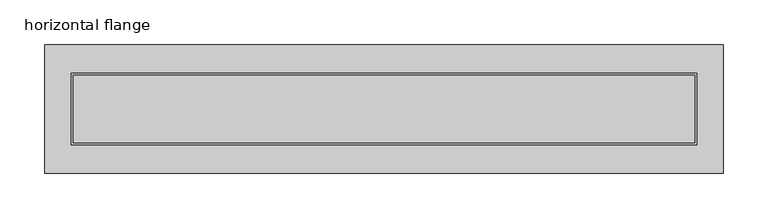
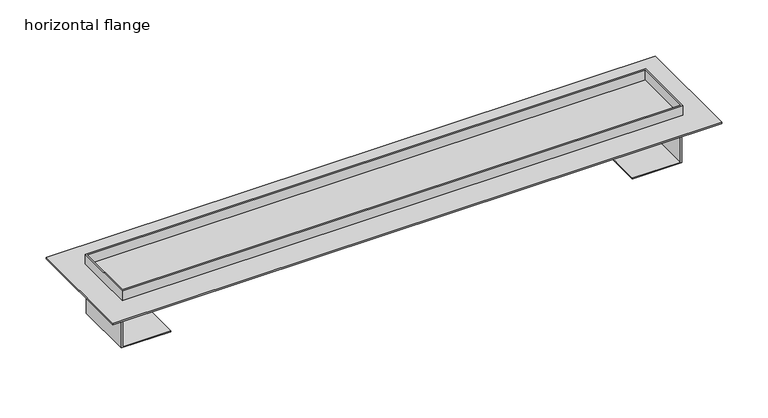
"""IFC4 building model written with IfcOpenShell, lengths in millimetres: sanitary terminal geometry, PF_ST_UN_ShowerDrain M_ACO : horizontal flange."""

import ifcopenshell
import ifcopenshell.guid

model = None  # the IFC model being written
_history = None  # IfcOwnerHistory: only IFC2X3 demands one
_inside = {}  # id of a spatial element -> (the spatial element, [elements in it])
_under = {}  # id of a project, library or spatial element -> (it, [spatial elements below it])
_declared = {}  # id of a project -> (the project, [libraries it declares])
_typed = {}  # id of a type object -> (the type object, [elements of that type])
_made_of = {}  # id of a material, layer set ... -> (it, [elements and type objects made of it])


def new_model(schema):
    """Start an empty IFC model of exactly this schema.

    Asked for "IFC4X3", IfcOpenShell would pick the latest addendum, in which some entities
    have other attributes; the version numbers below select the first issue.
    IFC2X3 requires an IfcOwnerHistory on every rooted entity: one is made here for all.
    """
    global model, _history
    if schema == "IFC4X3":
        model = ifcopenshell.file(schema_version=(4, 3, 0, 0))
    else:
        model = ifcopenshell.file(schema=schema)
    _inside.clear()
    _under.clear()
    _declared.clear()
    _typed.clear()
    _made_of.clear()
    _history = None
    if model.schema == "IFC2X3":
        org = make("IfcOrganization", Name="unknown")
        user = make(
            "IfcPersonAndOrganization",
            ThePerson=make("IfcPerson", FamilyName="unknown"),
            TheOrganization=org,
        )
        app = make(
            "IfcApplication",
            ApplicationDeveloper=org,
            Version="unknown",
            ApplicationFullName="unknown",
            ApplicationIdentifier="unknown",
        )
        _history = make(
            "IfcOwnerHistory",
            OwningUser=user,
            OwningApplication=app,
            ChangeAction="ADDED",
            CreationDate=0,
        )
    return model


def make(cls, **values):
    """One entity of the class cls with the attributes given. An attribute that is None is left unset."""
    return model.create_entity(
        cls, **{name: value for name, value in values.items() if value is not None}
    )


def rooted(cls, **values):
    """An entity with a GlobalId (a new one), such as an element, a storey or a relation."""
    return make(cls, GlobalId=ifcopenshell.guid.new(), OwnerHistory=_history, **values)


def si_unit(unit_type, name, prefix=None):
    """IfcSIUnit, for example si_unit("LENGTHUNIT", "METRE", prefix="MILLI")."""
    return make("IfcSIUnit", UnitType=unit_type, Prefix=prefix, Name=name)


def assignment(units):
    """IfcUnitAssignment: the units of a project."""
    return None if units is None else make("IfcUnitAssignment", Units=units)


def point(xyz):
    """IfcCartesianPoint."""
    return None if xyz is None else make("IfcCartesianPoint", Coordinates=xyz)


def direction(xyz):
    """IfcDirection."""
    return None if xyz is None else make("IfcDirection", DirectionRatios=xyz)


def frame(location, z_axis=None, x_axis=None):
    """IfcAxis2Placement3D, a coordinate frame: its origin and axes. An axis left out is left unset."""
    return make(
        "IfcAxis2Placement3D",
        Location=point(location),
        Axis=direction(z_axis),
        RefDirection=direction(x_axis),
    )


def origin():
    """The frame at (0, 0, 0) with its axes left unset."""
    return frame((0.0, 0.0, 0.0))


def origin_with_axes():
    """The frame at (0, 0, 0) with the z axis (0, 0, 1) and the x axis (1, 0, 0) written out."""
    return frame((0.0, 0.0, 0.0), z_axis=(0.0, 0.0, 1.0), x_axis=(1.0, 0.0, 0.0))


def place(relative_to, where):
    """IfcLocalPlacement: puts the frame where relative to a parent placement (None: the world)."""
    return make(
        "IfcLocalPlacement", PlacementRelTo=relative_to, RelativePlacement=where
    )


def context(
    kind, dimensions, precision=None, world=None, true_north=None, identifier=None
):
    """IfcGeometricRepresentationContext, for example the 3D "Model" context."""
    return make(
        "IfcGeometricRepresentationContext",
        ContextIdentifier=identifier,
        ContextType=kind,
        CoordinateSpaceDimension=dimensions,
        Precision=precision,
        WorldCoordinateSystem=world,
        TrueNorth=true_north,
    )


def project(units=None, contexts=None):
    """IfcProject with its units and contexts."""
    return rooted(
        "IfcProject",
        Name="project",
        RepresentationContexts=contexts,
        UnitsInContext=assignment(units),
    )


def spatial(cls, under=None, at=None, **own):
    """A site, building, storey or space (cls), placed at a placement, below another one or the project."""
    s = rooted(cls, ObjectPlacement=at, **own)
    if under is not None:
        _under.setdefault(under.id(), (under, []))[1].append(s)
    return s


def polyline(points):
    """IfcPolyline through the points."""
    return make("IfcPolyline", Points=[point(p) for p in points])


def outline(outer, holes=None, kind="AREA"):
    """IfcArbitraryClosedProfileDef: a profile drawn as a closed curve; with holes, ...WithVoids."""
    if holes is None:
        return make("IfcArbitraryClosedProfileDef", ProfileType=kind, OuterCurve=outer)
    return make(
        "IfcArbitraryProfileDefWithVoids",
        ProfileType=kind,
        OuterCurve=outer,
        InnerCurves=holes,
    )


def extrude(swept, where, along, depth):
    """IfcExtrudedAreaSolid: the profile swept, set in the frame where, extruded along a direction by depth."""
    return make(
        "IfcExtrudedAreaSolid",
        SweptArea=swept,
        Position=where,
        ExtrudedDirection=direction(along),
        Depth=depth,
    )


def faces_of(points, faces, orient=None, outer=None):
    """IfcFace entities. A face is a list of loops; a loop is a list of indices into points, from 0.

    orient and outer hold one flag for each loop. By default every Orientation is true, the
    first loop of a face is its IfcFaceOuterBound and the others are IfcFaceBound.
    """
    made = []
    for i, loops in enumerate(faces):
        bounds = []
        for j, loop in enumerate(loops):
            is_outer = j == 0 if outer is None else outer[i][j]
            bounds.append(
                make(
                    "IfcFaceOuterBound" if is_outer else "IfcFaceBound",
                    Bound=make("IfcPolyLoop", Polygon=[points[k] for k in loop]),
                    Orientation=True if orient is None else orient[i][j],
                )
            )
        made.append(make("IfcFace", Bounds=bounds))
    return made


def faceted_brep(points, faces, orient=None, outer=None, voids=None):
    """IfcFacetedBrep: a solid bounded by flat faces; with voids (closed shells), ...WithVoids."""
    shared = [point(p) for p in points]
    hull = make("IfcClosedShell", CfsFaces=faces_of(shared, faces, orient, outer))
    if voids is None:
        return make("IfcFacetedBrep", Outer=hull)
    return make(
        "IfcFacetedBrepWithVoids",
        Outer=hull,
        Voids=[
            make(cls, CfsFaces=faces_of(shared, fs, o, b)) for cls, fs, o, b in voids
        ],
    )


def shape(context_of_items, identifier, shape_type, items):
    """IfcShapeRepresentation: the items that make up one representation, for example the "Body"."""
    return make(
        "IfcShapeRepresentation",
        ContextOfItems=context_of_items,
        RepresentationIdentifier=identifier,
        RepresentationType=shape_type,
        Items=items,
    )


def source(mapping_origin, context_of_items, identifier, shape_type, items):
    """IfcRepresentationMap: a shape defined once, which mapped items show again and again."""
    return make(
        "IfcRepresentationMap",
        MappingOrigin=mapping_origin,
        MappedRepresentation=shape(context_of_items, identifier, shape_type, items),
    )


def transform(
    local_origin,
    x_axis=None,
    y_axis=None,
    z_axis=None,
    scale=None,
    scale2=None,
    scale3=None,
    uniform=True,
):
    """IfcCartesianTransformationOperator3D, or its non-uniform kind. x_axis, y_axis, z_axis: its Axis1, 2, 3."""
    if uniform:
        return make(
            "IfcCartesianTransformationOperator3D",
            Axis1=direction(x_axis),
            Axis2=direction(y_axis),
            LocalOrigin=point(local_origin),
            Scale=scale,
            Axis3=direction(z_axis),
        )
    return make(
        "IfcCartesianTransformationOperator3DnonUniform",
        Axis1=direction(x_axis),
        Axis2=direction(y_axis),
        LocalOrigin=point(local_origin),
        Scale=scale,
        Axis3=direction(z_axis),
        Scale2=scale2,
        Scale3=scale3,
    )


def mapped(mapping_source, mapping_target):
    """IfcMappedItem: shows the shape of a source again, moved by a transform."""
    return make(
        "IfcMappedItem", MappingSource=mapping_source, MappingTarget=mapping_target
    )


def made_of(thing, what):
    """Note that an element or type object is made of a material, layer set ...; save() writes the relation."""
    if what is not None:
        _made_of.setdefault(what.id(), (what, []))[1].append(thing)
    return thing


def element(
    cls,
    number,
    at=None,
    inside=None,
    cuts=None,
    type_object=None,
    material=None,
    context=None,
    identifier="Body",
    shape_type=None,
    held_by="IfcProductDefinitionShape",
    body=None,
    shapes=None,
    **own,
):
    """One element of the class cls, such as IfcWall. Its Tag is "e" and its number.

    at: its placement. inside: the storey or other place that contains it. cuts: it is an
    opening in that element (IfcRelVoidsElement). A single representation is given by context,
    identifier, shape_type and body (its items); several are given by shapes. held_by: the class
    of the entity that holds the representations. save() writes the other relations.
    """
    e = rooted(cls, Tag="e%d" % number, ObjectPlacement=at, **own)
    if body is not None:
        shapes = [shape(context, identifier, shape_type, body)]
    if shapes is not None:
        e.Representation = make(held_by, Representations=shapes)
    if inside is not None:
        _inside.setdefault(inside.id(), (inside, []))[1].append(e)
    if cuts is not None:
        rooted(
            "IfcRelVoidsElement", RelatingBuildingElement=cuts, RelatedOpeningElement=e
        )
    if type_object is not None:
        _typed.setdefault(type_object.id(), (type_object, []))[1].append(e)
    return made_of(e, material)


def aggregate(whole, parts):
    """IfcRelAggregates: a whole, such as a stair, and the parts it consists of."""
    return rooted("IfcRelAggregates", RelatingObject=whole, RelatedObjects=parts)


def save(model, path):
    """Write the relations noted so far, then the file.

    IfcRelAggregates (storeys below a building ...), IfcRelContainedInSpatialStructure (elements
    in a storey), IfcRelDefinesByType, IfcRelAssociatesMaterial and IfcRelDeclares: one each for
    every whole, place, type object, material and project.
    """
    for whole, parts in _under.values():
        aggregate(whole, parts)
    for where, things in _inside.values():
        rooted(
            "IfcRelContainedInSpatialStructure",
            RelatedElements=things,
            RelatingStructure=where,
        )
    for kind, things in _typed.values():
        rooted("IfcRelDefinesByType", RelatedObjects=things, RelatingType=kind)
    for what, things in _made_of.values():
        rooted("IfcRelAssociatesMaterial", RelatedObjects=things, RelatingMaterial=what)
    for by, libraries in _declared.values():
        rooted("IfcRelDeclares", RelatingContext=by, RelatedDefinitions=libraries)
    model.write(path)


def horizontal_flange_7874ed90(model_context):
    return source(origin(), model_context, "Body", "SolidModel", [
        extrude(outline(polyline([(380.0, 72.0), (380.0, -72.0), (-380.0, -72.0), (-380.0, 72.0), (380.0, 72.0)])), origin_with_axes(), (0.0, 0.0, 1.0), 2.0),
        extrude(outline(polyline([(-16.5, -348.0), (-16.5, -350.0), (-61.5, -350.0), (-61.5, -288.0), (-60.5, -288.0), (-60.5, -348.0), (-16.5, -348.0)])), frame((0.0, -38.0, 0.0), z_axis=(0.0, 1.0, 0.0), x_axis=(0.0, 0.0, 1.0)), (0.0, 0.0, 1.0), 76.0),
        extrude(outline(polyline([(-16.5, 348.0), (-60.5, 348.0), (-60.5, 288.0), (-61.5, 288.0), (-61.5, 350.0), (-16.5, 350.0), (-16.5, 348.0)])), frame((0.0, -38.0, 0.0), z_axis=(0.0, 1.0, 0.0), x_axis=(0.0, 0.0, 1.0)), (0.0, 0.0, 1.0), 76.0),
        faceted_brep([(350.0, 40.0, 15.0), (-350.0, 40.0, 15.0), (-350.0, -40.0, 15.0), (350.0, -40.0, 15.0), (-348.0, -38.0, 15.0), (-348.0, 38.0, 15.0), (348.0, 38.0, 15.0), (348.0, -38.0, 15.0), (350.0, 40.0, -16.5), (350.0, -40.0, -16.5), (-350.0, -40.0, -16.5), (-350.0, 40.0, -16.5), (-348.0, 38.0, -6.0), (-348.0, -38.0, -6.0), (348.0, -38.0, -6.0), (348.0, 38.0, -6.0)], [[[0, 1, 2, 3], [4, 5, 6, 7]], [[8, 9, 10, 11]], [[1, 0, 8, 11]], [[2, 1, 11, 10]], [[3, 2, 10, 9]], [[0, 3, 9, 8]], [[12, 13, 14, 15]], [[13, 12, 5, 4]], [[14, 13, 4, 7]], [[15, 14, 7, 6]], [[12, 15, 6, 5]]]),
    ])


if __name__ == "__main__":
    model = new_model("IFC4")
    model_context = context("Model", 3, world=origin())
    ifc_project = project(units=[si_unit("LENGTHUNIT", "METRE", prefix="MILLI")], contexts=[model_context])
    site = spatial("IfcSite", under=ifc_project)
    building = spatial("IfcBuilding", under=site)
    placement = place(None, origin())
    horizontal_flange_shape = horizontal_flange_7874ed90(model_context)
    element("IfcSanitaryTerminal", 1, ObjectType="PF_ST_UN_ShowerDrain M_ACO : horizontal flange", at=placement, inside=building, context=model_context, shape_type="MappedRepresentation", body=[
        mapped(horizontal_flange_shape, transform((0.0, 0.0, 0.0), x_axis=(1.0, 0.0, 0.0), y_axis=(0.0, 1.0, 0.0), z_axis=(0.0, 0.0, 1.0))),
    ])
    save(model, "model.ifc")
